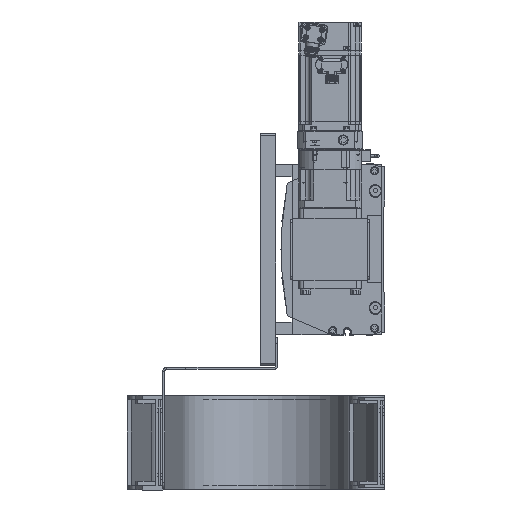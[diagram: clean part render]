
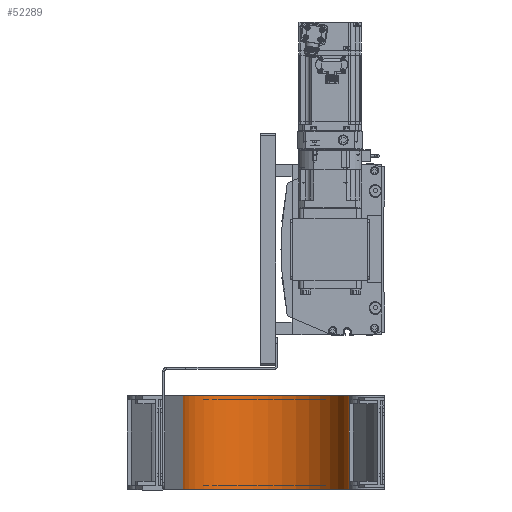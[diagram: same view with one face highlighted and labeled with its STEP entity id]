
A CAD part, left-side view. The second image highlights one B-rep face of the part: STEP entity #52289.
In plain terms, the highlighted cylindrical face has radius 82.5 mm (diameter 165 mm), a partial arc.
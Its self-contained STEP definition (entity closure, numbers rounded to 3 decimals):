
#5882=FACE_OUTER_BOUND('',#9015,.T.);
#9015=EDGE_LOOP('',(#48897,#48898,#48899,#48900));
#14181=LINE('',#90432,#19353);
#14186=LINE('',#90444,#19358);
#19353=VECTOR('',#72586,10.);
#19358=VECTOR('',#72599,10.);
#21451=CIRCLE('',#57593,82.5);
#21453=CIRCLE('',#57599,82.5);
#26429=VERTEX_POINT('',#90425);
#26430=VERTEX_POINT('',#90427);
#26431=VERTEX_POINT('',#90431);
#26434=VERTEX_POINT('',#90443);
#33919=EDGE_CURVE('',#26429,#26430,#21451,.T.);
#33921=EDGE_CURVE('',#26431,#26430,#14181,.T.);
#33927=EDGE_CURVE('',#26434,#26429,#14186,.T.);
#33928=EDGE_CURVE('',#26434,#26431,#21453,.T.);
#48897=ORIENTED_EDGE('',*,*,#33921,.T.);
#48898=ORIENTED_EDGE('',*,*,#33919,.F.);
#48899=ORIENTED_EDGE('',*,*,#33927,.F.);
#48900=ORIENTED_EDGE('',*,*,#33928,.T.);
#49492=CYLINDRICAL_SURFACE('',#57598,82.5);
#52289=ADVANCED_FACE('',(#5882),#49492,.F.);
#57593=AXIS2_PLACEMENT_3D('',#90428,#72581,#72582);
#57598=AXIS2_PLACEMENT_3D('',#90442,#72597,#72598);
#57599=AXIS2_PLACEMENT_3D('',#90445,#72600,#72601);
#72581=DIRECTION('center_axis',(0.,1.,0.));
#72582=DIRECTION('ref_axis',(0.036,0.,0.999));
#72586=DIRECTION('',(0.,-1.,0.));
#72597=DIRECTION('center_axis',(0.,1.,0.));
#72598=DIRECTION('ref_axis',(0.036,0.,0.999));
#72599=DIRECTION('',(0.,-1.,0.));
#72600=DIRECTION('center_axis',(0.,1.,0.));
#72601=DIRECTION('ref_axis',(0.036,0.,0.999));
#90425=CARTESIAN_POINT('',(602.967,-46.5,-37.553));
#90427=CARTESIAN_POINT('',(600.,-46.5,-202.5));
#90428=CARTESIAN_POINT('Origin',(600.,-46.5,-120.));
#90431=CARTESIAN_POINT('',(600.,46.5,-202.5));
#90432=CARTESIAN_POINT('',(600.,-46.5,-202.5));
#90442=CARTESIAN_POINT('Origin',(600.,0.,-120.));
#90443=CARTESIAN_POINT('',(602.967,46.5,-37.553));
#90444=CARTESIAN_POINT('',(602.967,-46.5,-37.553));
#90445=CARTESIAN_POINT('Origin',(600.,46.5,-120.));
